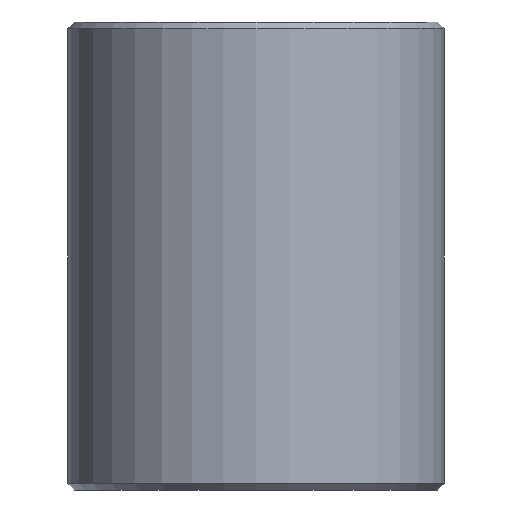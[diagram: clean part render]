
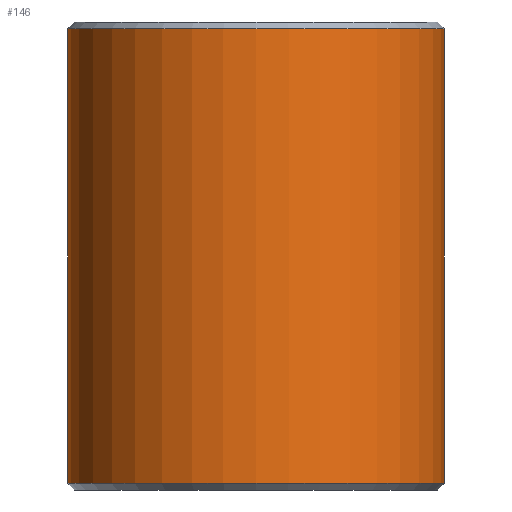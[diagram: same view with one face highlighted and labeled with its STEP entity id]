
A CAD part, front view. The second image highlights one B-rep face of the part: STEP entity #146.
In plain terms, the highlighted cylindrical face has radius 12.059 mm (diameter 24.117 mm), a partial arc.
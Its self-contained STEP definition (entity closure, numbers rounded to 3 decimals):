
#4 = VERTEX_POINT ( 'NONE', #85 ) ;
#10 = VERTEX_POINT ( 'NONE', #71 ) ;
#24 = EDGE_CURVE ( 'NONE', #43, #4, #50, .T. ) ;
#32 = VERTEX_POINT ( 'NONE', #162 ) ;
#43 = VERTEX_POINT ( 'NONE', #288 ) ;
#47 = DIRECTION ( 'NONE',  ( 0., 0., 1. ) ) ;
#48 = VECTOR ( 'NONE', #47, 1000. ) ;
#49 = CARTESIAN_POINT ( 'NONE',  ( -12.059, 0., 0. ) ) ;
#50 = LINE ( 'NONE', #49, #48 ) ;
#71 = CARTESIAN_POINT ( 'NONE',  ( 12.059, 0., -0.421 ) ) ;
#85 = CARTESIAN_POINT ( 'NONE',  ( -12.059, 0., -0.421 ) ) ;
#105 = ORIENTED_EDGE ( 'NONE', *, *, #106, .T. ) ;
#106 = EDGE_CURVE ( 'NONE', #43, #32, #156, .T. ) ;
#113 = ORIENTED_EDGE ( 'NONE', *, *, #117, .T. ) ;
#114 = ORIENTED_EDGE ( 'NONE', *, *, #115, .F. ) ;
#115 = EDGE_CURVE ( 'NONE', #4, #10, #270, .T. ) ;
#117 = EDGE_CURVE ( 'NONE', #32, #10, #258, .T. ) ;
#146 = ADVANCED_FACE ( 'NONE', ( #334 ), #333, .T. ) ;
#147 = EDGE_LOOP ( 'NONE', ( #148, #105, #113, #114 ) ) ;
#148 = ORIENTED_EDGE ( 'NONE', *, *, #24, .F. ) ;
#156 = CIRCLE ( 'NONE', #280, 12.059 ) ;
#162 = CARTESIAN_POINT ( 'NONE',  ( 12.059, 0., -29.579 ) ) ;
#240 = DIRECTION ( 'NONE',  ( 0., 0., 1. ) ) ;
#256 = VECTOR ( 'NONE', #240, 1000. ) ;
#257 = CARTESIAN_POINT ( 'NONE',  ( 12.059, 0., 0. ) ) ;
#258 = LINE ( 'NONE', #257, #256 ) ;
#266 = DIRECTION ( 'NONE',  ( 1., 0., 0. ) ) ;
#267 = DIRECTION ( 'NONE',  ( 0., 0., 1. ) ) ;
#268 = CARTESIAN_POINT ( 'NONE',  ( 0., 0., -0.421 ) ) ;
#269 = AXIS2_PLACEMENT_3D ( 'NONE', #268, #267, #266 ) ;
#270 = CIRCLE ( 'NONE', #269, 12.059 ) ;
#277 = DIRECTION ( 'NONE',  ( 1., 0., 0. ) ) ;
#278 = DIRECTION ( 'NONE',  ( 0., 0., 1. ) ) ;
#279 = CARTESIAN_POINT ( 'NONE',  ( 0., 0., -29.579 ) ) ;
#280 = AXIS2_PLACEMENT_3D ( 'NONE', #279, #278, #277 ) ;
#288 = CARTESIAN_POINT ( 'NONE',  ( -12.059, 0., -29.579 ) ) ;
#328 = DIRECTION ( 'NONE',  ( 1., 0., 0. ) ) ;
#329 = DIRECTION ( 'NONE',  ( 0., 0., 1. ) ) ;
#330 = CARTESIAN_POINT ( 'NONE',  ( 0., 0., 0. ) ) ;
#331 = AXIS2_PLACEMENT_3D ( 'NONE', #330, #329, #328 ) ;
#333 = CYLINDRICAL_SURFACE ( 'NONE', #331, 12.059 ) ;
#334 = FACE_OUTER_BOUND ( 'NONE', #147, .T. ) ;
